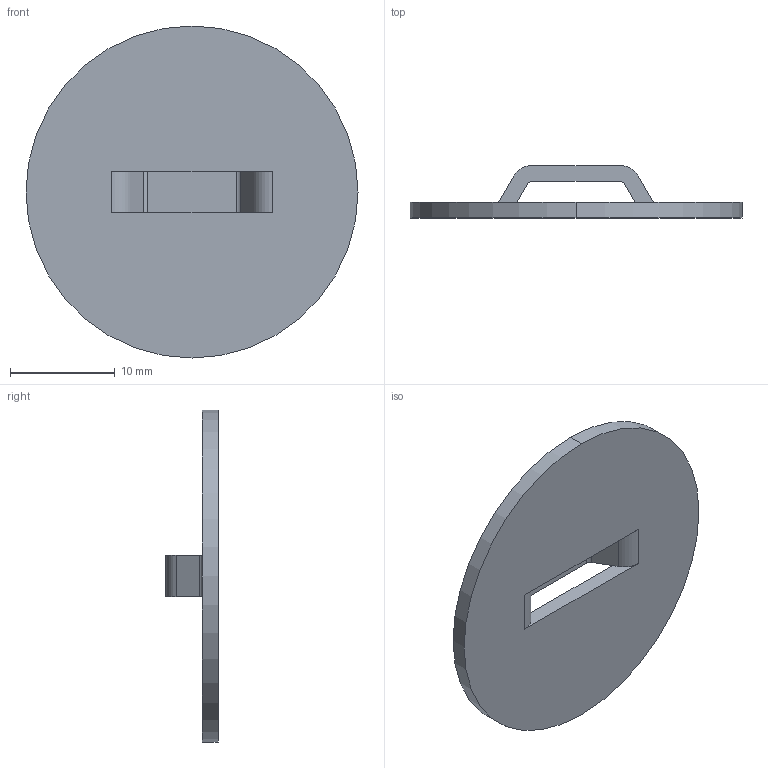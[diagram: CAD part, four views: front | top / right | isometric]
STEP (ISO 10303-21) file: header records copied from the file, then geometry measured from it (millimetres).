
FILE_DESCRIPTION (( 'STEP AP203' ), '1' );
FILE_NAME ('1886825 - 20 BRIDGE LANCE .157W X .583L X .138H.STEP', '2024-11-18T17:16:11', ( '' ), ( '' ), 'SwSTEP 2.0', 'SolidWorks 2024', '' );
FILE_SCHEMA (( 'CONFIG_CONTROL_DESIGN' ));
Length unit declared in the file: inch
Products named in the file (1): 1886825 - 20 BRIDGE LANCE .157W X .583L X .138H
Bounding box: 31.75 x 5 x 31.75 mm (x, y, z)
Volume: 1207.4 mm3; surface area: 1846.4 mm2
Topology: 1 solids, 1 shells, 22 faces, 62 edges, 40 vertices
Faces by surface type: plane 12, cylinder 10
Entity records: 801 total; most frequent: DIRECTION 128, CARTESIAN_POINT 125, ORIENTED_EDGE 124, EDGE_CURVE 62, AXIS2_PLACEMENT_3D 43, LINE 42, VECTOR 42, VERTEX_POINT 40
